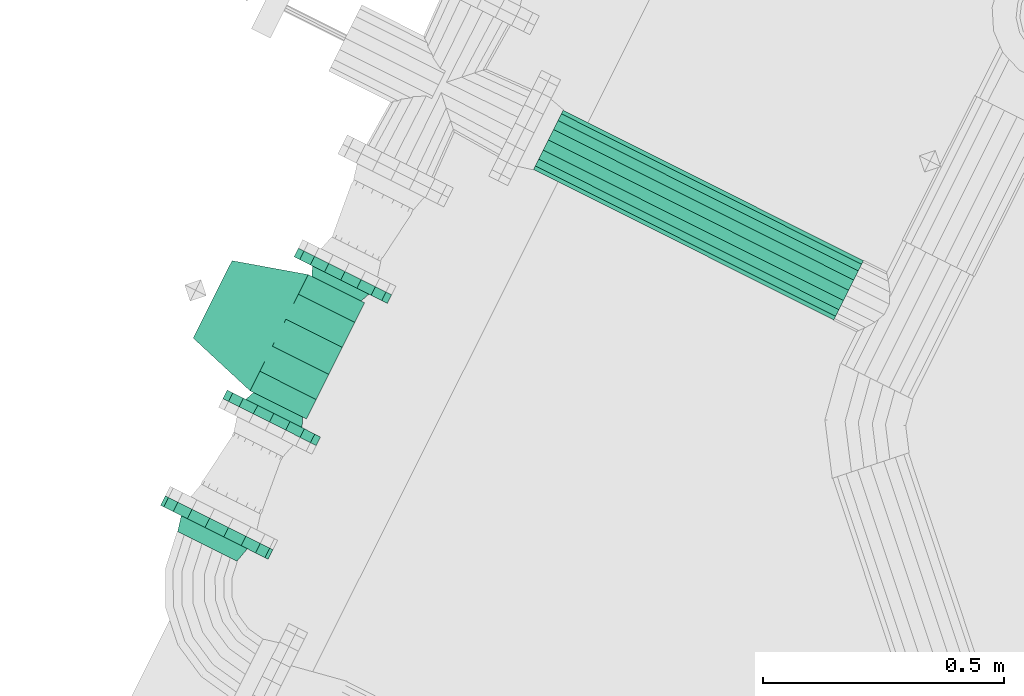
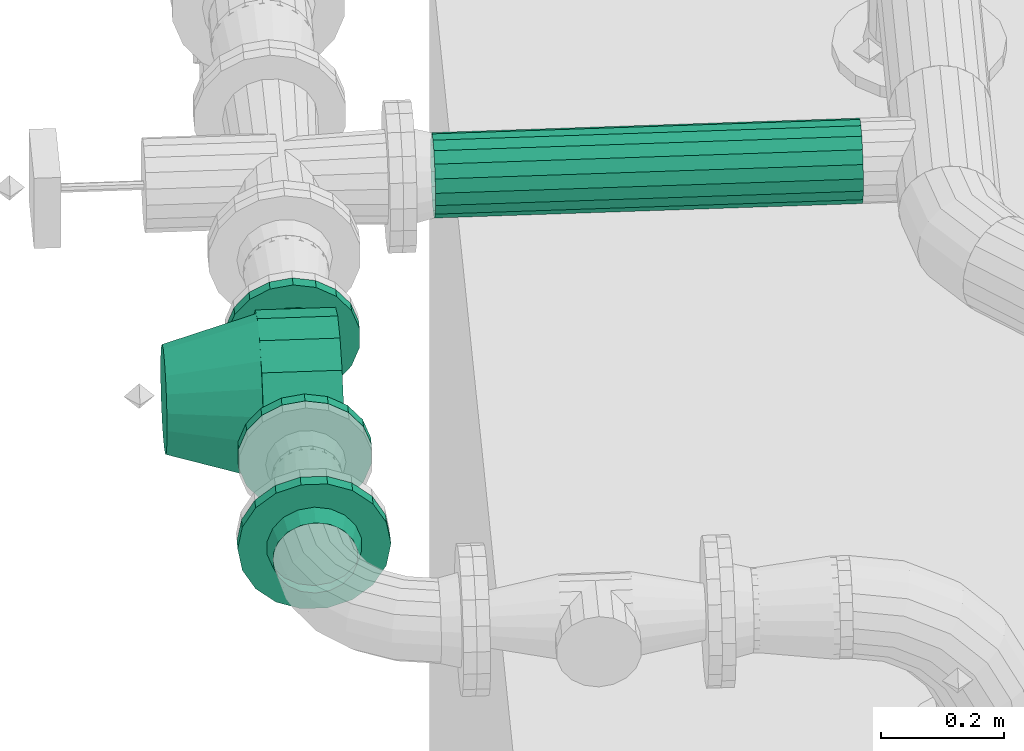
# One storey, part 103 of 206: 1 flow fitting, 1 flow moving device, 1 flow segment.
"""IFC2X3 building model written with IfcOpenShell, lengths in metres."""

from ifc_helpers import new_model, si_unit, derived_unit, direction, frame, origin, place, context, subcontext, project, spatial, face_set, surface_model, source, transform, mapped, material, type_object, type_shapes, element, save


model = new_model("IFC2X3")

# Units and contexts
model_context = context("Model", 3, precision=5.2338327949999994e-05, world=origin(), true_north=direction((0.0, 1.0)))
body_context = subcontext(model_context, "Body", "Model", "MODEL_VIEW")
ifc_project = project(units=[si_unit("LENGTHUNIT", "METRE"), si_unit("AREAUNIT", "SQUARE_METRE"), si_unit("VOLUMEUNIT", "CUBIC_METRE"), si_unit("MASSUNIT", "GRAM", prefix="KILO"), si_unit("PLANEANGLEUNIT", "RADIAN"), derived_unit("THERMALTRANSMITTANCEUNIT", [(si_unit("MASSUNIT", "GRAM", prefix="KILO"), 1), (si_unit("THERMODYNAMICTEMPERATUREUNIT", "KELVIN"), -1), (si_unit("TIMEUNIT", "SECOND"), -3)])], contexts=[model_context])

# Site, building, storey
site_placement = place(None, frame((0.0, 0.0, 0.0), z_axis=(0.0, 0.0, 1.0), x_axis=(0.8939966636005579, -0.4480736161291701, 0.0)))
site = spatial("IfcSite", under=ifc_project, at=site_placement, Name="Default", CompositionType="ELEMENT")
building_placement = place(site_placement, origin())
building = spatial("IfcBuilding", under=site, at=building_placement, CompositionType="ELEMENT")
storey_placement = place(building_placement, origin())
storey = spatial("IfcBuildingStorey", under=building, at=storey_placement, Name="Erdgeschoss", CompositionType="ELEMENT", Elevation=0.0)

# Flow fitting
ifc_material_1 = material(Name="IfcSurfaceStyle #1741")
distribution_element_type_1 = type_object("IfcDistributionElementType", Name="Flansch 311610:Flansch 311610", material=ifc_material_1)
shared_shape_1 = source(origin(), body_context, "Body", "SurfaceModel", [
    surface_model("IfcFaceBasedSurfaceModel", [(20.225980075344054, 5.640961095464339, 2.3539999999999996), (20.233518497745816, 5.640961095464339, 2.311247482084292), (20.233518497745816, 5.618961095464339, 2.311247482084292), (20.225980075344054, 5.618961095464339, 2.3539999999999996), (20.255224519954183, 5.640961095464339, 2.273651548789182), (20.255224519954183, 5.618961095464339, 2.273651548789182), (20.28848007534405, 5.640961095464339, 2.2457468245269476), (20.28848007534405, 5.618961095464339, 2.2457468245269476), (20.329274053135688, 5.640961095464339, 2.2308990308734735), (20.329274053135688, 5.618961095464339, 2.2308990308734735), (20.37268609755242, 5.640961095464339, 2.2308990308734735), (20.37268609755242, 5.618961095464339, 2.2308990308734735), (20.413480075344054, 5.640961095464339, 2.2457468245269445), (20.413480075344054, 5.618961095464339, 2.2457468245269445), (20.44673563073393, 5.640961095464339, 2.2736515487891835), (20.44673563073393, 5.618961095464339, 2.2736515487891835), (20.468441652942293, 5.640961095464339, 2.31124748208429), (20.468441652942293, 5.618961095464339, 2.31124748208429), (20.47598007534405, 5.640961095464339, 2.3539999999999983), (20.47598007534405, 5.618961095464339, 2.3539999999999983), (20.468441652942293, 5.640961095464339, 2.396752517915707), (20.468441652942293, 5.618961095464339, 2.396752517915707), (20.44673563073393, 5.640961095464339, 2.434348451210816), (20.44673563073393, 5.618961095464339, 2.434348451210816), (20.413480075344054, 5.640961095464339, 2.4622531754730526), (20.413480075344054, 5.618961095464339, 2.4622531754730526), (20.37268609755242, 5.640961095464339, 2.477100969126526), (20.37268609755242, 5.618961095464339, 2.477100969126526), (20.329274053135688, 5.640961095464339, 2.477100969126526), (20.329274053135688, 5.618961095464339, 2.477100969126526), (20.28848007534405, 5.640961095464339, 2.4622531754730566), (20.28848007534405, 5.618961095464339, 2.4622531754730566), (20.255224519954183, 5.640961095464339, 2.434348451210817), (20.255224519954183, 5.618961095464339, 2.434348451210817), (20.233518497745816, 5.640961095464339, 2.396752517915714), (20.233518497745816, 5.618961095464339, 2.396752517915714), (20.350980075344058, 5.618961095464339, 2.353999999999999), (20.350980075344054, 5.618961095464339, 2.276000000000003), (20.377657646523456, 5.618961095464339, 2.280703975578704), (20.374870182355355, 5.585961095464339, 2.288362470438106), (20.350980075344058, 5.585961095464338, 2.2841500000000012), (20.401117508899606, 5.618961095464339, 2.2942485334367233), (20.395878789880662, 5.585961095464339, 2.30049179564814), (20.418530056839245, 5.618961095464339, 2.3150000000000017), (20.411471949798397, 5.585961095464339, 2.3190750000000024), (20.427795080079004, 5.61896109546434, 2.340455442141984), (20.41976889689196, 5.585961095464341, 2.34187067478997), (20.427795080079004, 5.618961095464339, 2.3675445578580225), (20.419768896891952, 5.585961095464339, 2.366129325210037), (20.418530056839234, 5.61896109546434, 2.3930000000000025), (20.411471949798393, 5.585961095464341, 2.3889250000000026), (20.401117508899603, 5.618961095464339, 2.413751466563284), (20.39587878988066, 5.585961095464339, 2.4075082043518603), (20.377657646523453, 5.618961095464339, 2.4272960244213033), (20.37487018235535, 5.585961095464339, 2.419637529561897), (20.35098007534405, 5.618961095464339, 2.432000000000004), (20.35098007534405, 5.585961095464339, 2.4238500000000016), (20.324302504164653, 5.618961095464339, 2.4272960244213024), (20.327089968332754, 5.585961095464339, 2.4196375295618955), (20.3008426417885, 5.618961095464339, 2.413751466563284), (20.306081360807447, 5.585961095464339, 2.407508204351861), (20.283430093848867, 5.618961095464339, 2.3929999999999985), (20.290488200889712, 5.585961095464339, 2.3889249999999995), (20.2741650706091, 5.618961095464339, 2.367544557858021), (20.282191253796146, 5.585961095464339, 2.3661293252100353), (20.2741650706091, 5.618961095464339, 2.340455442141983), (20.282191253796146, 5.585961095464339, 2.341870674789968), (20.28343009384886, 5.618961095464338, 2.3150000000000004), (20.290488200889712, 5.585961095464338, 2.319075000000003), (20.30084264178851, 5.61896109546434, 2.2942485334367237), (20.306081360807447, 5.585961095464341, 2.3004917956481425), (20.324302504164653, 5.618961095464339, 2.2807039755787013), (20.327089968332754, 5.585961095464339, 2.2883624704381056)], [face_set([[[0, 1, 2, 3]], [[1, 4, 5, 2]], [[4, 6, 7, 5]], [[6, 8, 9, 7]], [[8, 10, 11, 9]], [[10, 12, 13, 11]], [[12, 14, 15, 13]], [[14, 16, 17, 15]], [[16, 18, 19, 17]], [[18, 20, 21, 19]], [[20, 22, 23, 21]], [[22, 24, 25, 23]], [[24, 26, 27, 25]], [[26, 28, 29, 27]], [[28, 30, 31, 29]], [[30, 32, 33, 31]], [[32, 34, 35, 33]], [[34, 0, 3, 35]], [[36, 35, 3]], [[36, 33, 35]], [[36, 31, 33]], [[36, 29, 31]], [[36, 27, 29]], [[36, 25, 27]], [[36, 23, 25]], [[36, 21, 23]], [[36, 19, 21]], [[36, 17, 19]], [[36, 15, 17]], [[36, 13, 15]], [[36, 11, 13]], [[36, 9, 11]], [[36, 7, 9]], [[36, 5, 7]], [[36, 2, 5]], [[36, 3, 2]], [[37, 38, 39, 40]], [[38, 41, 42, 39]], [[41, 43, 44, 42]], [[43, 45, 46, 44]], [[45, 47, 48, 46]], [[47, 49, 50, 48]], [[49, 51, 52, 50]], [[51, 53, 54, 52]], [[53, 55, 56, 54]], [[55, 57, 58, 56]], [[57, 59, 60, 58]], [[59, 61, 62, 60]], [[61, 63, 64, 62]], [[63, 65, 66, 64]], [[65, 67, 68, 66]], [[67, 69, 70, 68]], [[69, 71, 72, 70]], [[71, 37, 40, 72]]])]),
])
type_shapes(distribution_element_type_1, [shared_shape_1])
flow_fitting_placement = place(storey_placement, origin())
element("IfcFlowFitting", 1, at=flow_fitting_placement, inside=storey, type_object=distribution_element_type_1, material=ifc_material_1, Name="Flansch", ObjectType="Flansch", context=body_context, shape_type="MappedRepresentation", body=[
    mapped(shared_shape_1, transform((0.0, 0.0, 0.0), scale=1.0)),
])

# Flow moving device
distribution_element_type_2 = type_object("IfcDistributionElementType", Name="Inline-Pumpe:Inline-Pumpe", material=ifc_material_1)
shared_shape_2 = source(origin(), body_context, "Body", "SurfaceModel", [
    surface_model("IfcFaceBasedSurfaceModel", [(20.35098007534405, 6.22496109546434, 2.4639999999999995), (20.313357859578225, 6.22496109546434, 2.457366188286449), (20.313357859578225, 6.2049610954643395, 2.457366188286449), (20.35098007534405, 6.20496109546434, 2.4640000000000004), (20.28027343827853, 6.22496109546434, 2.438264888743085), (20.28027343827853, 6.2049610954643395, 2.438264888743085), (20.25571728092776, 6.22496109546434, 2.4090000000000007), (20.25571728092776, 6.2049610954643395, 2.4090000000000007), (20.242651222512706, 6.22496109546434, 2.3731012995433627), (20.242651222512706, 6.2049610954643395, 2.3731012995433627), (20.242651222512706, 6.22496109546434, 2.3348987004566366), (20.242651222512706, 6.2049610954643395, 2.3348987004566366), (20.25571728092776, 6.22496109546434, 2.298999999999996), (20.25571728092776, 6.2049610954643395, 2.298999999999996), (20.28027343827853, 6.22496109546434, 2.2697351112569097), (20.28027343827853, 6.2049610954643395, 2.2697351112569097), (20.31335785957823, 6.22496109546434, 2.2506338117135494), (20.31335785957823, 6.2049610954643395, 2.2506338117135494), (20.35098007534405, 6.22496109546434, 2.2439999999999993), (20.35098007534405, 6.2049610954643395, 2.2439999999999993), (20.388602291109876, 6.22496109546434, 2.25063381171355), (20.388602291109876, 6.2049610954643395, 2.25063381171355), (20.421686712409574, 6.22496109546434, 2.269735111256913), (20.421686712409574, 6.2049610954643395, 2.269735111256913), (20.446242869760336, 6.22496109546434, 2.299000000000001), (20.446242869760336, 6.2049610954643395, 2.299000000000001), (20.459308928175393, 6.22496109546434, 2.3348987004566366), (20.459308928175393, 6.2049610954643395, 2.3348987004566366), (20.459308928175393, 6.22496109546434, 2.373101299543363), (20.459308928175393, 6.2049610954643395, 2.373101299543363), (20.446242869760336, 6.22496109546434, 2.4090000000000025), (20.446242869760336, 6.2049610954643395, 2.4090000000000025), (20.42168671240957, 6.22496109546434, 2.43826488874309), (20.42168671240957, 6.2049610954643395, 2.43826488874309), (20.388602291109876, 6.22496109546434, 2.4573661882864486), (20.388602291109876, 6.2049610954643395, 2.4573661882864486), (20.35098007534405, 6.2049610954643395, 2.354), (20.35098007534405, 6.22496109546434, 2.354), (20.41648007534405, 6.2049610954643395, 2.354), (20.41252994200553, 6.2049610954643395, 2.376402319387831), (20.404683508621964, 6.184961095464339, 2.3735464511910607), (20.408130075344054, 6.184961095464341, 2.3539999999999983), (20.401155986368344, 6.2049610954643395, 2.396102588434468), (20.394759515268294, 6.184961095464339, 2.3907353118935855), (20.38373007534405, 6.20496109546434, 2.410724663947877), (20.379555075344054, 6.184961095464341, 2.4034933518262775), (20.362354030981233, 6.2049610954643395, 2.4185049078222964), (20.36090406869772, 6.184961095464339, 2.410281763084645), (20.33960611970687, 6.2049610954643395, 2.418504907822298), (20.341056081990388, 6.184961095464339, 2.410281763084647), (20.31823007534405, 6.2049610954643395, 2.4107246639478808), (20.322405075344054, 6.184961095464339, 2.403493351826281), (20.30080416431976, 6.20496109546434, 2.396102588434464), (20.3072006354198, 6.184961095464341, 2.390735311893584), (20.289430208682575, 6.2049610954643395, 2.376402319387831), (20.297276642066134, 6.184961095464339, 2.3735464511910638), (20.28548007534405, 6.204961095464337, 2.3539999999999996), (20.29383007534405, 6.184961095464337, 2.354000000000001), (20.289430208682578, 6.20496109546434, 2.331597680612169), (20.297276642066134, 6.184961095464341, 2.3344535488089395), (20.300804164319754, 6.204961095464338, 2.311897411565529), (20.3072006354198, 6.184961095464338, 2.3172646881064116), (20.318230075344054, 6.2049610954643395, 2.2972753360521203), (20.32240507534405, 6.184961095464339, 2.304506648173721), (20.33960611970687, 6.2049610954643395, 2.2894950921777), (20.341056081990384, 6.184961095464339, 2.2977182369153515), (20.362354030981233, 6.2049610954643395, 2.2894950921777), (20.360904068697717, 6.184961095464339, 2.2977182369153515), (20.38373007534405, 6.2049610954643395, 2.2972753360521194), (20.379555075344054, 6.184961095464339, 2.3045066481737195), (20.401155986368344, 6.2049610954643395, 2.3118974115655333), (20.394759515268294, 6.184961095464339, 2.3172646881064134), (20.412529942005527, 6.2049610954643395, 2.331597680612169), (20.404683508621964, 6.184961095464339, 2.334453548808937), (20.40813007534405, 5.914961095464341, 2.3539999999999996), (20.404683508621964, 5.914961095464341, 2.373546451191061), (20.412529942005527, 5.894961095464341, 2.376402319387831), (20.41648007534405, 5.894961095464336, 2.353999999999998), (20.394759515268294, 5.914961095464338, 2.3907353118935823), (20.401155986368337, 5.894961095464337, 2.396102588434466), (20.37955507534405, 5.9149610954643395, 2.4034933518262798), (20.38373007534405, 5.894961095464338, 2.4107246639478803), (20.360904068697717, 5.9149610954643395, 2.4102817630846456), (20.362354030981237, 5.894961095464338, 2.418504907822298), (20.341056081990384, 5.9149610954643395, 2.410281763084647), (20.33960611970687, 5.894961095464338, 2.4185049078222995), (20.322405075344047, 5.9149610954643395, 2.4034933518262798), (20.31823007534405, 5.894961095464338, 2.4107246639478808), (20.3072006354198, 5.9149610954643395, 2.3907353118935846), (20.30080416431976, 5.894961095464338, 2.3961025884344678), (20.29727664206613, 5.9149610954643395, 2.3735464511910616), (20.28943020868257, 5.894961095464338, 2.376402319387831), (20.29383007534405, 5.914961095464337, 2.3539999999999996), (20.285480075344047, 5.894961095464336, 2.353999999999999), (20.29727664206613, 5.9149610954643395, 2.3344535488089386), (20.28943020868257, 5.894961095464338, 2.3315976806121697), (20.3072006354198, 5.914961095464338, 2.3172646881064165), (20.300804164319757, 5.894961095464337, 2.311897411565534), (20.322405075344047, 5.9149610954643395, 2.3045066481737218), (20.31823007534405, 5.894961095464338, 2.297275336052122), (20.34105608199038, 5.91496109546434, 2.2977182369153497), (20.339606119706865, 5.894961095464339, 2.2894950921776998), (20.36090406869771, 5.9149610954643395, 2.2977182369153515), (20.362354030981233, 5.894961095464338, 2.2894950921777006), (20.37955507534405, 5.9149610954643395, 2.304506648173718), (20.38373007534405, 5.894961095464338, 2.297275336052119), (20.394759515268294, 5.9149610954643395, 2.317264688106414), (20.401155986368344, 5.894961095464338, 2.311897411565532), (20.404683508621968, 5.91496109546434, 2.3344535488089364), (20.412529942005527, 5.894961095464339, 2.331597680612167), (20.35098007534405, 5.894961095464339, 2.4639999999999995), (20.31335785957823, 5.894961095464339, 2.4573661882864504), (20.31335785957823, 5.874961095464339, 2.4573661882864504), (20.35098007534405, 5.874961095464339, 2.4639999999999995), (20.280273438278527, 5.894961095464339, 2.4382648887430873), (20.280273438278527, 5.874961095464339, 2.4382648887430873), (20.25571728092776, 5.894961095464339, 2.4090000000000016), (20.25571728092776, 5.874961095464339, 2.4090000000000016), (20.242651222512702, 5.894961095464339, 2.3731012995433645), (20.242651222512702, 5.874961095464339, 2.3731012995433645), (20.242651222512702, 5.894961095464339, 2.3348987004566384), (20.242651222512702, 5.874961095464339, 2.3348987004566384), (20.25571728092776, 5.894961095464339, 2.2990000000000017), (20.25571728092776, 5.874961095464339, 2.2990000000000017), (20.280273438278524, 5.894961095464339, 2.2697351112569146), (20.280273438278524, 5.874961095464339, 2.2697351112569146), (20.31335785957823, 5.894961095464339, 2.25063381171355), (20.31335785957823, 5.874961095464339, 2.25063381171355), (20.350980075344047, 5.894961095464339, 2.244), (20.350980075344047, 5.874961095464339, 2.244), (20.388602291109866, 5.894961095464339, 2.2506338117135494), (20.388602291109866, 5.874961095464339, 2.2506338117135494), (20.421686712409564, 5.894961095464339, 2.269735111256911), (20.421686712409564, 5.874961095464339, 2.269735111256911), (20.446242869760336, 5.894961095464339, 2.2989999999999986), (20.446242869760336, 5.874961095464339, 2.2989999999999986), (20.45930892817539, 5.894961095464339, 2.3348987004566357), (20.45930892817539, 5.874961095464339, 2.3348987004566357), (20.45930892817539, 5.894961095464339, 2.373101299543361), (20.45930892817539, 5.874961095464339, 2.373101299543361), (20.446242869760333, 5.894961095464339, 2.4089999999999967), (20.446242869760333, 5.874961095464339, 2.4089999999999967), (20.42168671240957, 5.894961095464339, 2.438264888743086), (20.42168671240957, 5.874961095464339, 2.438264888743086), (20.38860229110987, 5.894961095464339, 2.457366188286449), (20.38860229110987, 5.874961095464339, 2.457366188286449), (20.35098007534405, 5.894961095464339, 2.354), (20.35098007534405, 5.874961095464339, 2.354), (20.285480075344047, 6.184961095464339, 2.419500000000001), (20.285480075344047, 6.184961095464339, 2.2885000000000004), (20.416480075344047, 6.184961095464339, 2.288499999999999), (20.416480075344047, 6.184961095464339, 2.4194999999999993), (20.285480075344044, 5.9149610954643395, 2.2885000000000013), (20.285480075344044, 5.960383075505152, 2.245269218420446), (20.416480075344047, 5.960383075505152, 2.245269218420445), (20.416480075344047, 5.9149610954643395, 2.2885), (20.285480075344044, 6.018608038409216, 2.2219902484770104), (20.416480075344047, 6.018608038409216, 2.221990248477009), (20.285480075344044, 6.081314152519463, 2.2219902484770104), (20.416480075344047, 6.081314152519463, 2.221990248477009), (20.285480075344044, 6.139539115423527, 2.2452692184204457), (20.416480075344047, 6.139539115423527, 2.2452692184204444), (20.285480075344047, 5.9149610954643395, 2.419500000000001), (20.416480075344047, 5.9149610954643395, 2.4194999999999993), (20.285480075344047, 6.139539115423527, 2.4627307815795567), (20.41648007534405, 6.139539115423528, 2.4627307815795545), (20.285480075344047, 6.081314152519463, 2.48600975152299), (20.416480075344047, 6.081314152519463, 2.486009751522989), (20.285480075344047, 6.018608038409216, 2.48600975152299), (20.416480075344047, 6.0186080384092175, 2.486009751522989), (20.285480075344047, 5.960383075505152, 2.4627307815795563), (20.41648007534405, 5.960383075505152, 2.462730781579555), (20.285480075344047, 5.9149610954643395, 2.354), (20.285480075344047, 5.9231025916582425, 2.4001727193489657), (20.13098007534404, 5.9653887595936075, 2.3847818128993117), (20.13098007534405, 5.959961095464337, 2.354000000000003), (20.285480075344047, 5.946545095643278, 2.4407763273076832), (20.13098007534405, 5.981017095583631, 2.4118508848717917), (20.285480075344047, 5.98246109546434, 2.4709134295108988), (20.130980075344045, 6.004961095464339, 2.431942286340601), (20.285480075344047, 6.026518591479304, 2.4869490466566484), (20.13098007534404, 6.0343327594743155, 2.442632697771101), (20.285480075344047, 6.073403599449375, 2.4869490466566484), (20.13098007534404, 6.065589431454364, 2.4426326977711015), (20.285480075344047, 6.117461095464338, 2.4709134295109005), (20.130980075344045, 6.094961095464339, 2.431942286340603), (20.285480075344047, 6.1533770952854, 2.4407763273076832), (20.13098007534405, 6.118905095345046, 2.4118508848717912), (20.285480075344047, 6.176819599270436, 2.4001727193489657), (20.13098007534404, 6.134533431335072, 2.3847818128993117), (20.285480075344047, 6.184961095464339, 2.354), (20.13098007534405, 6.139961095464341, 2.354000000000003), (20.285480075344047, 6.176819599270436, 2.3078272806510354), (20.130980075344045, 6.134533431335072, 2.323218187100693), (20.285480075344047, 6.1533770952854, 2.267223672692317), (20.13098007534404, 6.118905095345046, 2.2961491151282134), (20.285480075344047, 6.117461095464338, 2.2370865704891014), (20.13098007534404, 6.094961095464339, 2.2760577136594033), (20.285480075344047, 6.073403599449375, 2.221050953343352), (20.130980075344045, 6.065589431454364, 2.2653673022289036), (20.285480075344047, 6.026518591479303, 2.221050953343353), (20.130980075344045, 6.0343327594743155, 2.265367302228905), (20.285480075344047, 5.9824610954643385, 2.237086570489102), (20.13098007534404, 6.004961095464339, 2.2760577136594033), (20.285480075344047, 5.946545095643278, 2.2672236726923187), (20.13098007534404, 5.981017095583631, 2.2961491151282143), (20.285480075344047, 5.923102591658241, 2.3078272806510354), (20.130980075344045, 5.9653887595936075, 2.323218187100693), (20.130980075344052, 6.049961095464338, 2.354000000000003)], [face_set([[[0, 1, 2, 3]], [[1, 4, 5, 2]], [[4, 6, 7, 5]], [[6, 8, 9, 7]], [[8, 10, 11, 9]], [[10, 12, 13, 11]], [[12, 14, 15, 13]], [[14, 16, 17, 15]], [[16, 18, 19, 17]], [[18, 20, 21, 19]], [[20, 22, 23, 21]], [[22, 24, 25, 23]], [[24, 26, 27, 25]], [[26, 28, 29, 27]], [[28, 30, 31, 29]], [[30, 32, 33, 31]], [[32, 34, 35, 33]], [[34, 0, 3, 35]], [[36, 35, 3]], [[36, 33, 35]], [[36, 31, 33]], [[36, 29, 31]], [[36, 27, 29]], [[36, 25, 27]], [[36, 23, 25]], [[36, 21, 23]], [[36, 19, 21]], [[36, 17, 19]], [[36, 15, 17]], [[36, 13, 15]], [[36, 11, 13]], [[36, 9, 11]], [[36, 7, 9]], [[36, 5, 7]], [[36, 2, 5]], [[36, 3, 2]], [[37, 1, 0]], [[37, 4, 1]], [[37, 6, 4]], [[37, 8, 6]], [[37, 10, 8]], [[37, 12, 10]], [[37, 14, 12]], [[37, 16, 14]], [[37, 18, 16]], [[37, 20, 18]], [[37, 22, 20]], [[37, 24, 22]], [[37, 26, 24]], [[37, 28, 26]], [[37, 30, 28]], [[37, 32, 30]], [[37, 34, 32]], [[37, 0, 34]], [[38, 39, 40, 41]], [[39, 42, 43, 40]], [[42, 44, 45, 43]], [[44, 46, 47, 45]], [[46, 48, 49, 47]], [[48, 50, 51, 49]], [[50, 52, 53, 51]], [[52, 54, 55, 53]], [[54, 56, 57, 55]], [[56, 58, 59, 57]], [[58, 60, 61, 59]], [[60, 62, 63, 61]], [[62, 64, 65, 63]], [[64, 66, 67, 65]], [[66, 68, 69, 67]], [[68, 70, 71, 69]], [[70, 72, 73, 71]], [[72, 38, 41, 73]], [[74, 75, 76, 77]], [[75, 78, 79, 76]], [[78, 80, 81, 79]], [[80, 82, 83, 81]], [[82, 84, 85, 83]], [[84, 86, 87, 85]], [[86, 88, 89, 87]], [[88, 90, 91, 89]], [[90, 92, 93, 91]], [[92, 94, 95, 93]], [[94, 96, 97, 95]], [[96, 98, 99, 97]], [[98, 100, 101, 99]], [[100, 102, 103, 101]], [[102, 104, 105, 103]], [[104, 106, 107, 105]], [[106, 108, 109, 107]], [[108, 74, 77, 109]], [[110, 111, 112, 113]], [[111, 114, 115, 112]], [[114, 116, 117, 115]], [[116, 118, 119, 117]], [[118, 120, 121, 119]], [[120, 122, 123, 121]], [[122, 124, 125, 123]], [[124, 126, 127, 125]], [[126, 128, 129, 127]], [[128, 130, 131, 129]], [[130, 132, 133, 131]], [[132, 134, 135, 133]], [[134, 136, 137, 135]], [[136, 138, 139, 137]], [[138, 140, 141, 139]], [[140, 142, 143, 141]], [[142, 144, 145, 143]], [[144, 110, 113, 145]], [[146, 111, 110]], [[146, 114, 111]], [[146, 116, 114]], [[146, 118, 116]], [[146, 120, 118]], [[146, 122, 120]], [[146, 124, 122]], [[146, 126, 124]], [[146, 128, 126]], [[146, 130, 128]], [[146, 132, 130]], [[146, 134, 132]], [[146, 136, 134]], [[146, 138, 136]], [[146, 140, 138]], [[146, 142, 140]], [[146, 144, 142]], [[146, 110, 144]], [[147, 145, 113]], [[147, 143, 145]], [[147, 141, 143]], [[147, 139, 141]], [[147, 137, 139]], [[147, 135, 137]], [[147, 133, 135]], [[147, 131, 133]], [[147, 129, 131]], [[147, 127, 129]], [[147, 125, 127]], [[147, 123, 125]], [[147, 121, 123]], [[147, 119, 121]], [[147, 117, 119]], [[147, 115, 117]], [[147, 112, 115]], [[147, 113, 112]], [[148, 149, 150, 151]], [[152, 153, 154, 155]], [[153, 156, 157, 154]], [[156, 158, 159, 157]], [[158, 160, 161, 159]], [[160, 149, 150, 161]], [[152, 162, 163, 155]], [[148, 164, 165, 151]], [[164, 166, 167, 165]], [[166, 168, 169, 167]], [[168, 170, 171, 169]], [[170, 162, 163, 171]], [[161, 150, 151]], [[159, 161, 151]], [[157, 159, 151]], [[154, 157, 151]], [[155, 154, 151]], [[163, 155, 151]], [[171, 163, 151]], [[169, 171, 151]], [[167, 169, 151]], [[165, 167, 151]], [[148, 149, 160]], [[148, 160, 158]], [[148, 158, 156]], [[148, 156, 153]], [[148, 153, 152]], [[148, 152, 162]], [[148, 162, 170]], [[148, 170, 168]], [[148, 168, 166]], [[148, 166, 164]], [[172, 173, 174, 175]], [[173, 176, 177, 174]], [[176, 178, 179, 177]], [[178, 180, 181, 179]], [[180, 182, 183, 181]], [[182, 184, 185, 183]], [[184, 186, 187, 185]], [[186, 188, 189, 187]], [[188, 190, 191, 189]], [[190, 192, 193, 191]], [[192, 194, 195, 193]], [[194, 196, 197, 195]], [[196, 198, 199, 197]], [[198, 200, 201, 199]], [[200, 202, 203, 201]], [[202, 204, 205, 203]], [[204, 206, 207, 205]], [[206, 172, 175, 207]], [[208, 207, 175]], [[208, 205, 207]], [[208, 203, 205]], [[208, 201, 203]], [[208, 199, 201]], [[208, 197, 199]], [[208, 195, 197]], [[208, 193, 195]], [[208, 191, 193]], [[208, 189, 191]], [[208, 187, 189]], [[208, 185, 187]], [[208, 183, 185]], [[208, 181, 183]], [[208, 179, 181]], [[208, 177, 179]], [[208, 174, 177]], [[208, 175, 174]]])]),
])
type_shapes(distribution_element_type_2, [shared_shape_2])
flow_moving_device_placement = place(storey_placement, origin())
element("IfcFlowMovingDevice", 2, at=flow_moving_device_placement, inside=storey, type_object=distribution_element_type_2, material=ifc_material_1, Name="Inline-Pumpe", ObjectType="Inline-Pumpe", context=body_context, shape_type="MappedRepresentation", body=[
    mapped(shared_shape_2, transform((0.0, 0.0, 0.0), scale=1.0)),
])

# Flow segment
ifc_material_2 = material(Name="IfcSurfaceStyle #9317")
distribution_element_type_3 = type_object("IfcDistributionElementType", Name="Stahlrohr nach DIN 2448 317282:Stahlrohr nach DIN 2448 317282", material=ifc_material_2)
shared_shape_3 = source(origin(), body_context, "Body", "SurfaceModel", [
    surface_model("IfcFaceBasedSurfaceModel", [(20.60598007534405, 6.65896109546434, 2.4238499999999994), (20.60598007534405, 6.635070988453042, 2.419637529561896), (21.303947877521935, 6.635070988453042, 2.419637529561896), (21.303947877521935, 6.658961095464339, 2.423849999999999), (20.60598007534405, 6.614062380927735, 2.4075082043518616), (21.303947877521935, 6.614062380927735, 2.407508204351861), (20.60598007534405, 6.598469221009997, 2.388925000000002), (21.303947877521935, 6.598469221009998, 2.3889250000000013), (20.60598007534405, 6.590172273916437, 2.3661293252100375), (21.303947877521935, 6.590172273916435, 2.366129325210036), (20.60598007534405, 6.590172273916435, 2.341870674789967), (21.303947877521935, 6.590172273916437, 2.3418706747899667), (20.60598007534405, 6.598469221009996, 2.319075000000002), (21.303947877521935, 6.598469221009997, 2.319075), (20.60598007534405, 6.614062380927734, 2.3004917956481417), (21.303947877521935, 6.614062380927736, 2.3004917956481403), (20.60598007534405, 6.63507098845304, 2.2883624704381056), (21.303947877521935, 6.635070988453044, 2.2883624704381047), (20.60598007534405, 6.65896109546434, 2.28415), (21.303947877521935, 6.658961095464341, 2.2841500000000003), (20.60598007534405, 6.682851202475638, 2.288362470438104), (21.303947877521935, 6.682851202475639, 2.2883624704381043), (20.60598007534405, 6.703859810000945, 2.300491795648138), (21.303947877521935, 6.703859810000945, 2.3004917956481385), (20.60598007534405, 6.719452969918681, 2.3190749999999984), (21.303947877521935, 6.7194529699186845, 2.3190749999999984), (20.60598007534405, 6.727749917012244, 2.3418706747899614), (21.303947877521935, 6.727749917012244, 2.3418706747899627), (20.60598007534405, 6.727749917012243, 2.3661293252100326), (21.303947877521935, 6.727749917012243, 2.3661293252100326), (20.60598007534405, 6.719452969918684, 2.388924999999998), (21.303947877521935, 6.719452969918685, 2.388924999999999), (20.60598007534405, 6.703859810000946, 2.407508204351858), (21.303947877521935, 6.703859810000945, 2.407508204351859), (20.60598007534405, 6.6828512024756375, 2.419637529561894), (21.303947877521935, 6.6828512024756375, 2.419637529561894)], [face_set([[[0, 1, 2, 3]], [[1, 4, 5, 2]], [[4, 6, 7, 5]], [[6, 8, 9, 7]], [[8, 10, 11, 9]], [[10, 12, 13, 11]], [[12, 14, 15, 13]], [[14, 16, 17, 15]], [[16, 18, 19, 17]], [[18, 20, 21, 19]], [[20, 22, 23, 21]], [[22, 24, 25, 23]], [[24, 26, 27, 25]], [[26, 28, 29, 27]], [[28, 30, 31, 29]], [[30, 32, 33, 31]], [[32, 34, 35, 33]], [[34, 0, 3, 35]]])]),
])
type_shapes(distribution_element_type_3, [shared_shape_3])
flow_segment_placement = place(storey_placement, origin())
element("IfcFlowSegment", 3, at=flow_segment_placement, inside=storey, type_object=distribution_element_type_3, material=ifc_material_2, Name="Stahlrohr nach DIN 2448", ObjectType="Stahlrohr nach DIN 2448", context=body_context, shape_type="MappedRepresentation", body=[
    mapped(shared_shape_3, transform((0.0, 0.0, 0.0), scale=1.0)),
])

save(model, "model.ifc")
